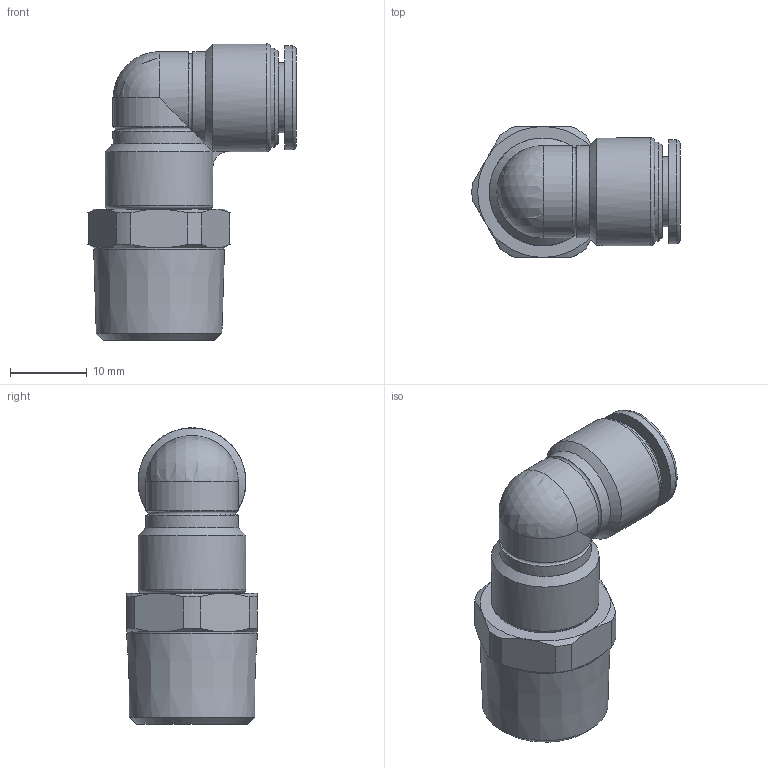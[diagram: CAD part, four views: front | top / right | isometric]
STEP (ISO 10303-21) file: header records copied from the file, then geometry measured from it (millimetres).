
FILE_DESCRIPTION(/* description */ (''),/* implementation_level */ '2;1');
FILE_NAME(/* name */ 'E:\2013年度版　3D-DATA\【02】 TOUCH CONNECTOR FIVE SUS\[02] MALE ELBOW\[10] FS8-03ML FS8-03MLW.stp',/* time_stamp */ '2013-08-06T16:49:20+09:00',/* author */ ('takahashi-pc2'),/* organization */ (''),/* preprocessor_version */ 'ST-DEVELOPER v15.2',/* originating_system */ 'Autodesk Inventor 2014',/* authorisation */ '');
FILE_SCHEMA (('AUTOMOTIVE_DESIGN { 1 0 10303 214 3 1 1 }'));
Length unit declared in the file: millimetre
Products named in the file (1): [10] FS8-03ML FS8-03MLW
Bounding box: 27.04 x 17 x 38.5 mm (x, y, z)
Volume: 7377 mm3; surface area: 3182 mm2
Topology: 1 solids, 1 shells, 60 faces, 138 edges, 83 vertices
Faces by surface type: plane 19, cylinder 18, cone 17, torus 5, sphere 1
Full cylindrical faces by diameter (mm): 8 x1, 9.1 x1, 12.9 x1, 13.5 x1, 14 x2, 17 x1
Entity records: 1627 total; most frequent: CARTESIAN_POINT 367, DIRECTION 272, ORIENTED_EDGE 242, AXIS2_PLACEMENT_3D 122, EDGE_CURVE 121, VERTEX_POINT 81, EDGE_LOOP 78, ADVANCED_FACE 60
